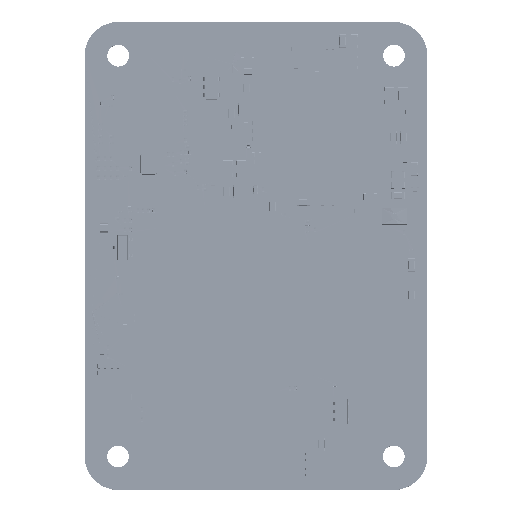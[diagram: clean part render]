
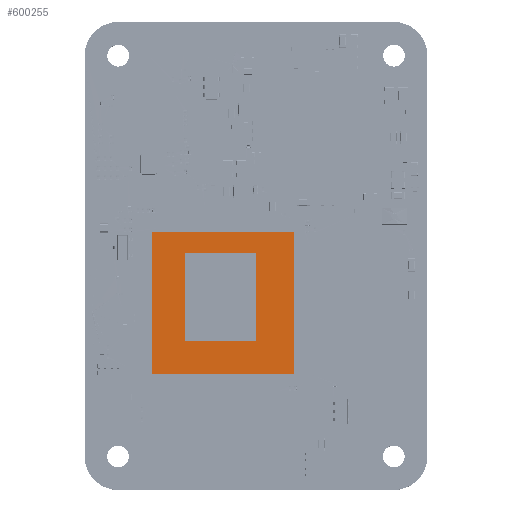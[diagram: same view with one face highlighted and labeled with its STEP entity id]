
A CAD part, top view. The second image highlights one B-rep face of the part: STEP entity #600255.
In plain terms, the highlighted planar face has unit normal (0, 0, 1).
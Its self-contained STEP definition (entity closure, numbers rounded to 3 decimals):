
#600105=DIRECTION('',(0.,-1.,0.));
#600106=VECTOR('',#600105,17.);
#600107=CARTESIAN_POINT('',(-8.5,8.5,3.06));
#600108=LINE('',#600107,#600106);
#600109=DIRECTION('',(-1.,0.,0.));
#600110=VECTOR('',#600109,17.);
#600111=CARTESIAN_POINT('',(8.5,8.5,3.06));
#600112=LINE('',#600111,#600110);
#600113=DIRECTION('',(0.,1.,0.));
#600114=VECTOR('',#600113,17.);
#600115=CARTESIAN_POINT('',(8.5,-8.5,3.06));
#600116=LINE('',#600115,#600114);
#600117=DIRECTION('',(1.,0.,0.));
#600118=VECTOR('',#600117,17.);
#600119=CARTESIAN_POINT('',(-8.5,-8.5,3.06));
#600120=LINE('',#600119,#600118);
#600129=CARTESIAN_POINT('',(-8.5,8.5,3.06));
#600130=CARTESIAN_POINT('',(-8.5,-8.5,3.06));
#600131=VERTEX_POINT('',#600129);
#600132=VERTEX_POINT('',#600130);
#600133=CARTESIAN_POINT('',(8.5,-8.5,3.06));
#600134=VERTEX_POINT('',#600133);
#600135=CARTESIAN_POINT('',(8.5,8.5,3.06));
#600136=VERTEX_POINT('',#600135);
#600244=CARTESIAN_POINT('',(0.,0.,3.06));
#600245=DIRECTION('',(0.,0.,1.));
#600246=DIRECTION('',(-1.,0.,0.));
#600247=AXIS2_PLACEMENT_3D('',#600244,#600245,#600246);
#600248=PLANE('',#600247);
#600249=ORIENTED_EDGE('',*,*,#600168,.F.);
#600250=ORIENTED_EDGE('',*,*,#600190,.F.);
#600251=ORIENTED_EDGE('',*,*,#600211,.F.);
#600252=ORIENTED_EDGE('',*,*,#600231,.F.);
#600253=EDGE_LOOP('',(#600249,#600250,#600251,#600252));
#600254=FACE_OUTER_BOUND('',#600253,.F.);
#600255=ADVANCED_FACE('',(#600254),#600248,.T.);
#600168=EDGE_CURVE('',#600131,#600132,#600108,.T.);
#600190=EDGE_CURVE('',#600136,#600131,#600112,.T.);
#600211=EDGE_CURVE('',#600134,#600136,#600116,.T.);
#600231=EDGE_CURVE('',#600132,#600134,#600120,.T.);
